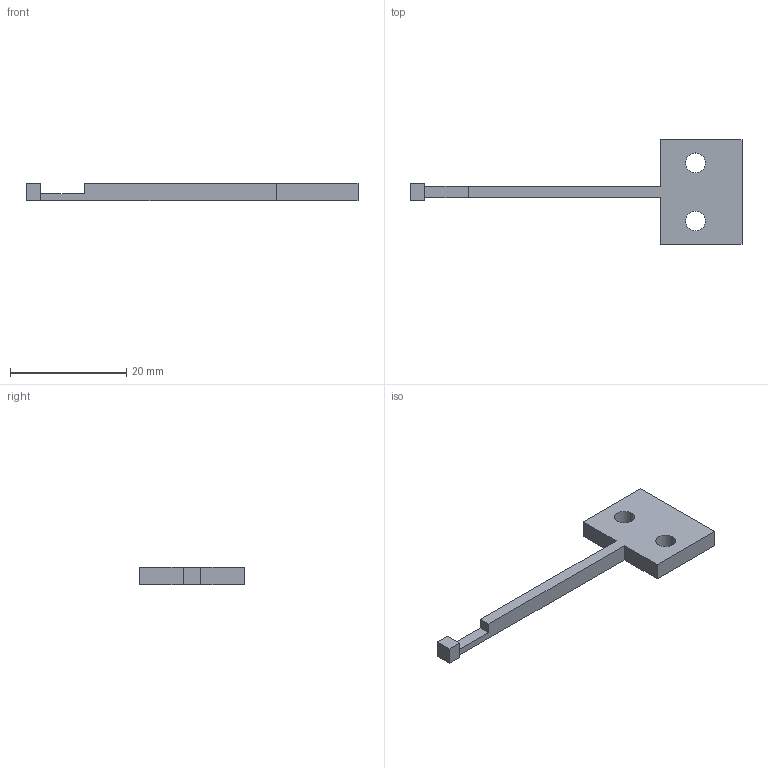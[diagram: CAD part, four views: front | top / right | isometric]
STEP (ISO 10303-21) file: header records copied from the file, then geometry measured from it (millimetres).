
FILE_DESCRIPTION(('Open CASCADE Model'),'2;1');
FILE_NAME('Open CASCADE Shape Model','2026-11-08T04:10:21',('Author'),( 'Open CASCADE'),'Open CASCADE STEP processor 7.8','Open CASCADE 7.8' ,'Unknown');
FILE_SCHEMA(('AUTOMOTIVE_DESIGN { 1 0 10303 214 1 1 1 1 }'));
Length unit declared in the file: millimetre
Products named in the file (1): Open CASCADE STEP translator 7.8 10
Bounding box: 57.05 x 18 x 3 mm (x, y, z)
Volume: 940.1 mm3; surface area: 1145.3 mm2
Topology: 1 solids, 1 shells, 18 faces, 48 edges, 32 vertices
Faces by surface type: plane 16, cylinder 2
Full cylindrical faces by diameter (mm): 3.4 x2
Entity records: 1192 total; most frequent: CARTESIAN_POINT 201, DIRECTION 180, LINE 130, VECTOR 130, ORIENTED_EDGE 96, PCURVE 96, DEFINITIONAL_REPRESENTATION 96, EDGE_CURVE 48
